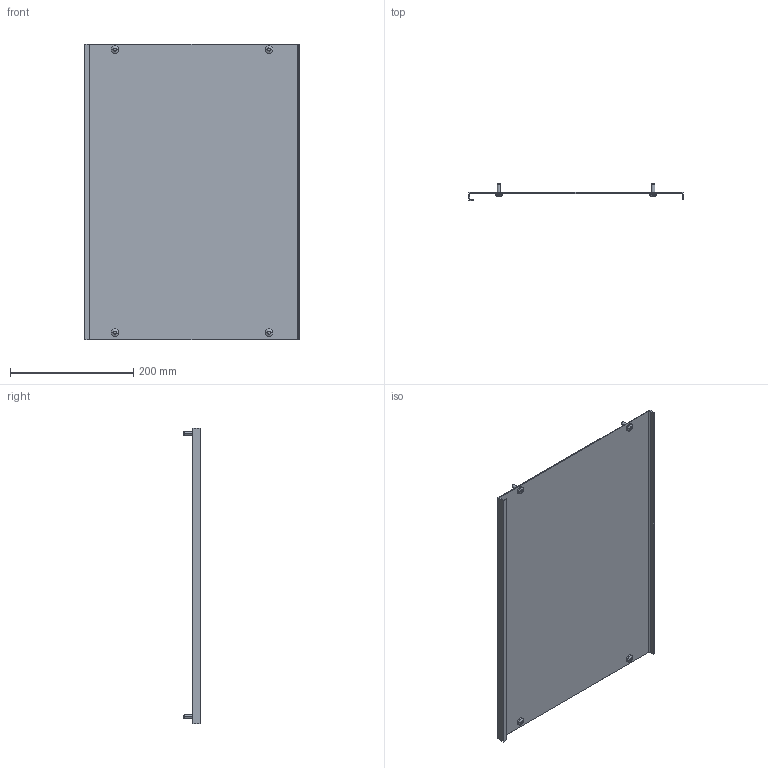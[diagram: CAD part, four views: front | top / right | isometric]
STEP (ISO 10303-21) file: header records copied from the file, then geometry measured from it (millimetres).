
FILE_DESCRIPTION (( 'STEP AP214' ), '1' );
FILE_NAME ('FO-00-PVS-035-060 Ïëàñòðîí ãëóõîé âíóòðåííèé 350õ600.STEP', '2025-09-30T06:35:54', ( '' ), ( '' ), 'SwSTEP 2.0', 'SolidWorks 2023', '' );
FILE_SCHEMA (( 'AUTOMOTIVE_DESIGN' ));
Length unit declared in the file: millimetre
Products named in the file (3): Винт M6x16 035-060 IEK; FO-00-PVS-035-060 Пластрон глухой внутренний 350х600
Assembly tree (3 placements, depth 2):
  FO-00-PVS-035-060 Пластрон глухой внутренний 350х600
    FO-00-PVS-035-060 Пластрон глухой внутренний 350х600
    Винт M6x16 035-060 IEK  x2
Bounding box: 348 x 27 x 479 mm (x, y, z)
Volume: 271860.6 mm3; surface area: 362885.2 mm2
Topology: 5 solids, 5 shells, 151 faces, 391 edges, 254 vertices
Faces by surface type: cylinder 89, plane 42, cone 12, bspline 8
Entity records: 3232 total; most frequent: CARTESIAN_POINT 722, ORIENTED_EDGE 510, DIRECTION 503, EDGE_CURVE 255, AXIS2_PLACEMENT_3D 183, VERTEX_POINT 166, LINE 137, VECTOR 137
